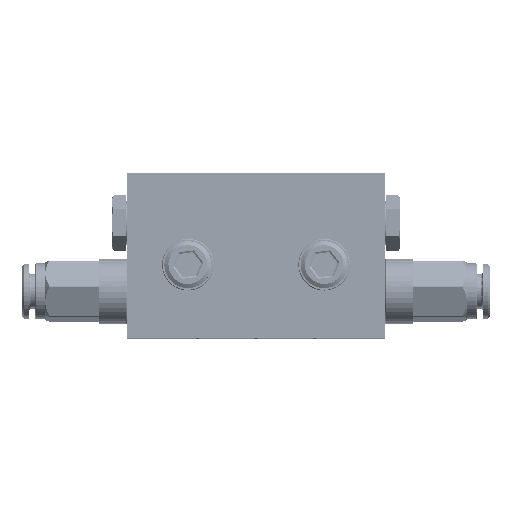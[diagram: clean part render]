
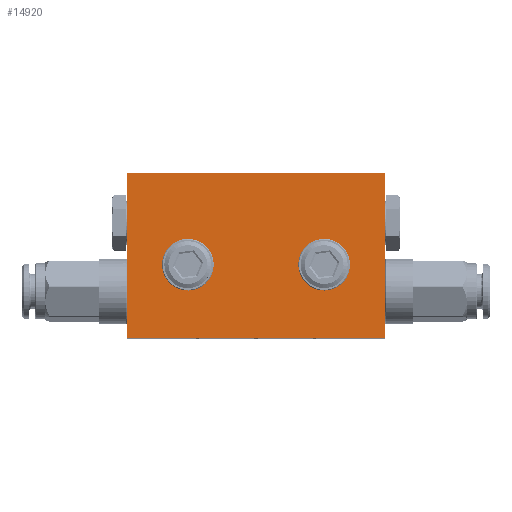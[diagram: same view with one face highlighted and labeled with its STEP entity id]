
A CAD part, top view. The second image highlights one B-rep face of the part: STEP entity #14920.
In plain terms, the highlighted planar face has unit normal (0, 0, 1) as drawn and (0, 0, -1) by its records, which use the part's own axes.
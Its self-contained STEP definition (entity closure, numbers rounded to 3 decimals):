
#1791 = DIRECTION ( 'NONE',  ( 0., 0., 1. ) ) ;
#1866 = VERTEX_POINT ( 'NONE', #10957 ) ;
#2255 = DIRECTION ( 'NONE',  ( -1., 0., 0. ) ) ;
#3328 = CARTESIAN_POINT ( 'NONE',  ( 27.5, 0., -4.85 ) ) ;
#4770 = AXIS2_PLACEMENT_3D ( 'NONE', #40179, #21404, #13649 ) ;
#4799 = ORIENTED_EDGE ( 'NONE', *, *, #32507, .F. ) ;
#5167 = FACE_BOUND ( 'NONE', #46882, .T. ) ;
#8334 = CARTESIAN_POINT ( 'NONE',  ( 0., 0., -4.85 ) ) ;
#8506 = VERTEX_POINT ( 'NONE', #15155 ) ;
#9560 = ORIENTED_EDGE ( 'NONE', *, *, #40391, .F. ) ;
#10175 = VERTEX_POINT ( 'NONE', #39919 ) ;
#10957 = CARTESIAN_POINT ( 'NONE',  ( 27.5, -35., -4.85 ) ) ;
#12548 = AXIS2_PLACEMENT_3D ( 'NONE', #34860, #20401, #16737 ) ;
#13649 = DIRECTION ( 'NONE',  ( 1., 0., 0. ) ) ;
#14920 = ADVANCED_FACE ( 'NONE', ( #5167, #31250, #37469 ), #41828, .F. ) ;
#15058 = EDGE_CURVE ( 'NONE', #10175, #8506, #46133, .T. ) ;
#15155 = CARTESIAN_POINT ( 'NONE',  ( -27.5, -35., -4.85 ) ) ;
#15542 = AXIS2_PLACEMENT_3D ( 'NONE', #8334, #1791, #45894 ) ;
#16737 = DIRECTION ( 'NONE',  ( -1., 0., 0. ) ) ;
#17433 = DIRECTION ( 'NONE',  ( 0., -1., 0. ) ) ;
#19506 = CIRCLE ( 'NONE', #12548, 3.1 ) ;
#20401 = DIRECTION ( 'NONE',  ( 0., 0., -1. ) ) ;
#21004 = DIRECTION ( 'NONE',  ( 0., 1., 0. ) ) ;
#21088 = CARTESIAN_POINT ( 'NONE',  ( -27.5, 0., -4.85 ) ) ;
#21096 = CARTESIAN_POINT ( 'NONE',  ( 0., 0., -4.85 ) ) ;
#21404 = DIRECTION ( 'NONE',  ( 0., 0., -1. ) ) ;
#23804 = CARTESIAN_POINT ( 'NONE',  ( 0., -35., -4.85 ) ) ;
#27123 = VECTOR ( 'NONE', #17433, 1000. ) ;
#27309 = LINE ( 'NONE', #41999, #42274 ) ;
#29409 = EDGE_CURVE ( 'NONE', #8506, #1866, #41905, .T. ) ;
#31025 = ORIENTED_EDGE ( 'NONE', *, *, #29409, .F. ) ;
#31036 = ORIENTED_EDGE ( 'NONE', *, *, #43607, .F. ) ;
#31100 = EDGE_CURVE ( 'NONE', #40868, #40868, #44818, .T. ) ;
#31250 = FACE_BOUND ( 'NONE', #46198, .T. ) ;
#32166 = LINE ( 'NONE', #21096, #33464 ) ;
#32507 = EDGE_CURVE ( 'NONE', #33867, #33867, #19506, .T. ) ;
#33464 = VECTOR ( 'NONE', #2255, 1000. ) ;
#33867 = VERTEX_POINT ( 'NONE', #37017 ) ;
#34624 = VECTOR ( 'NONE', #38281, 1000. ) ;
#34860 = CARTESIAN_POINT ( 'NONE',  ( 14.5, -15.5, -4.85 ) ) ;
#35065 = VERTEX_POINT ( 'NONE', #3328 ) ;
#35677 = ORIENTED_EDGE ( 'NONE', *, *, #15058, .F. ) ;
#37017 = CARTESIAN_POINT ( 'NONE',  ( 11.4, -15.5, -4.85 ) ) ;
#37469 = FACE_OUTER_BOUND ( 'NONE', #41188, .T. ) ;
#38281 = DIRECTION ( 'NONE',  ( 1., 0., 0. ) ) ;
#39919 = CARTESIAN_POINT ( 'NONE',  ( -27.5, 0., -4.85 ) ) ;
#40179 = CARTESIAN_POINT ( 'NONE',  ( -14.5, -15.5, -4.85 ) ) ;
#40391 = EDGE_CURVE ( 'NONE', #35065, #10175, #32166, .T. ) ;
#40868 = VERTEX_POINT ( 'NONE', #47231 ) ;
#41188 = EDGE_LOOP ( 'NONE', ( #31025, #35677, #9560, #31036 ) ) ;
#41828 = PLANE ( 'NONE',  #15542 ) ;
#41905 = LINE ( 'NONE', #23804, #34624 ) ;
#41999 = CARTESIAN_POINT ( 'NONE',  ( 27.5, 0., -4.85 ) ) ;
#42274 = VECTOR ( 'NONE', #21004, 1000. ) ;
#42918 = ORIENTED_EDGE ( 'NONE', *, *, #31100, .F. ) ;
#43607 = EDGE_CURVE ( 'NONE', #1866, #35065, #27309, .T. ) ;
#44818 = CIRCLE ( 'NONE', #4770, 3.1 ) ;
#45894 = DIRECTION ( 'NONE',  ( 1., 0., 0. ) ) ;
#46133 = LINE ( 'NONE', #21088, #27123 ) ;
#46198 = EDGE_LOOP ( 'NONE', ( #4799 ) ) ;
#46882 = EDGE_LOOP ( 'NONE', ( #42918 ) ) ;
#47231 = CARTESIAN_POINT ( 'NONE',  ( -11.4, -15.5, -4.85 ) ) ;
